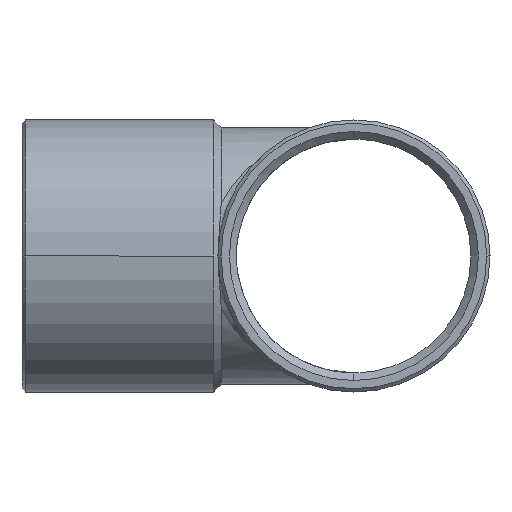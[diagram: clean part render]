
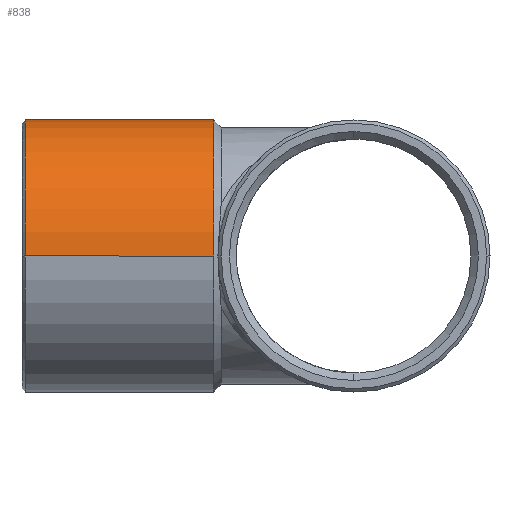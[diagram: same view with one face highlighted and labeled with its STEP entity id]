
A CAD part, left-side view. The second image highlights one B-rep face of the part: STEP entity #838.
In plain terms, the highlighted cylindrical face has radius 8.2 mm (diameter 16.4 mm), a partial arc.
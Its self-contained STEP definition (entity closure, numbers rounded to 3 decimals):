
#179=CARTESIAN_POINT('',(8.2,8.45,0.));
#180=VERTEX_POINT('',#179);
#188=CARTESIAN_POINT('',(0.,8.45,8.2));
#189=VERTEX_POINT('',#188);
#190=CARTESIAN_POINT('',(0.,8.45,0.0));
#191=DIRECTION('',(0.0,1.0,0.0));
#192=DIRECTION('',(-1.0,0.0,0.0));
#193=AXIS2_PLACEMENT_3D('',#190,#191,#192);
#194=CIRCLE('',#193,8.2);
#195=EDGE_CURVE('',#189,#180,#194,.T.);
#798=CARTESIAN_POINT('',(0.,14.225,0.0));
#799=DIRECTION('',(0.,1.0,0.0));
#800=DIRECTION('',(-1.0,0.0,0.0));
#801=AXIS2_PLACEMENT_3D('',#798,#799,#800);
#802=CYLINDRICAL_SURFACE('',#801,8.2);
#803=CARTESIAN_POINT('',(-8.2,8.45,0.0));
#804=VERTEX_POINT('',#803);
#805=CARTESIAN_POINT('',(-8.2,19.8,0.));
#806=VERTEX_POINT('',#805);
#807=CARTESIAN_POINT('',(-8.2,8.45,0.0));
#808=DIRECTION('',(0.0,1.0,0.0));
#809=VECTOR('',#808,11.35);
#810=LINE('',#807,#809);
#811=EDGE_CURVE('',#804,#806,#810,.T.);
#812=ORIENTED_EDGE('',*,*,#811,.F.);
#813=CARTESIAN_POINT('',(0.,8.45,0.0));
#814=DIRECTION('',(0.0,1.0,0.0));
#815=DIRECTION('',(-1.0,0.0,0.0));
#816=AXIS2_PLACEMENT_3D('',#813,#814,#815);
#817=CIRCLE('',#816,8.2);
#818=EDGE_CURVE('',#804,#189,#817,.T.);
#819=ORIENTED_EDGE('',*,*,#818,.T.);
#820=ORIENTED_EDGE('',*,*,#195,.T.);
#821=CARTESIAN_POINT('',(8.2,19.8,0.));
#822=VERTEX_POINT('',#821);
#823=CARTESIAN_POINT('',(8.2,19.8,0.));
#824=DIRECTION('',(0.0,-1.0,0.0));
#825=VECTOR('',#824,11.35);
#826=LINE('',#823,#825);
#827=EDGE_CURVE('',#822,#180,#826,.T.);
#828=ORIENTED_EDGE('',*,*,#827,.F.);
#829=CARTESIAN_POINT('',(0.,19.8,0.0));
#830=DIRECTION('',(0.0,1.0,0.0));
#831=DIRECTION('',(1.0,0.0,0.0));
#832=AXIS2_PLACEMENT_3D('',#829,#830,#831);
#833=CIRCLE('',#832,8.2);
#834=EDGE_CURVE('',#806,#822,#833,.T.);
#835=ORIENTED_EDGE('',*,*,#834,.F.);
#836=EDGE_LOOP('',(#812,#819,#820,#828,#835));
#837=FACE_OUTER_BOUND('',#836,.T.);
#838=ADVANCED_FACE('',(#837),#802,.T.);
